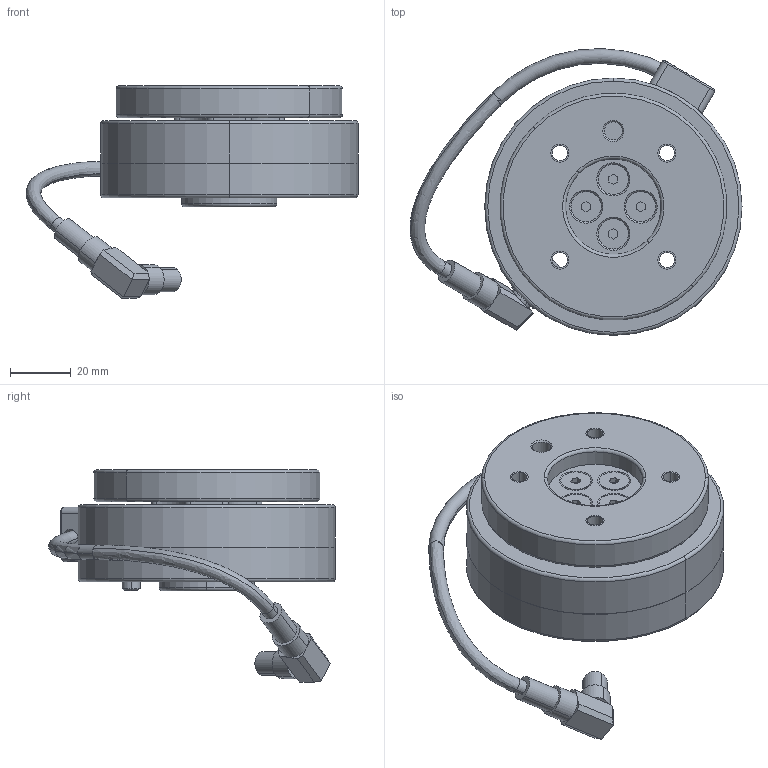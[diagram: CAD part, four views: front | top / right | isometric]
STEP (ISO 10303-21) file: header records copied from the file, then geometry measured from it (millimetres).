
FILE_DESCRIPTION((''),'2;1');
FILE_NAME('3635C2-00_ASM','2020-07-02T15:08:43',('lenovo'),(''),'CREO PARAMETRIC BY PTC INC, 2016390','CREO PARAMETRIC BY PTC INC, 2016390','');
FILE_SCHEMA(('CONFIG_CONTROL_DESIGN'));
Length unit declared in the file: millimetre
Products named in the file (22): 3635C2-15; 3635C2-10_ASM; 3635C2-21; M6X10; 5000385; 3635C2-22_ASM; 5000151; 3635C2-25; 5000119; 5000406; 3635C2-CIRCUIT; 3635C2-CABLE; 3635C2-FILLER5; 3635C2-O-RING; 5000635; 3635C2-FILLER6; 3635C2-LED_3MM; 3635C2-01_ASM; 3635C2-31; 3635C2-30_ASM; MFHCS_M5X14; 3635C2-00_ASM
Assembly tree (36 placements, depth 4):
  3635C2-00_ASM
    3635C2-01_ASM
      3635C2-10_ASM
        3635C2-15
      3635C2-22_ASM
        3635C2-21
        M6X10
        5000385
      5000151  x4
      3635C2-25
      5000119  x2
      5000406
      3635C2-CIRCUIT
      3635C2-CABLE
      3635C2-FILLER5  x4
      3635C2-O-RING
      5000635  x4
      3635C2-FILLER6  x2
      3635C2-LED_3MM
    3635C2-30_ASM
      3635C2-31
      5000385
    MFHCS_M5X14  x4
Bounding box: 109.68 x 94.75 x 70.1 mm (x, y, z)
Volume: 167001.3 mm3; surface area: 72142.5 mm2
Topology: 32 solids, 70 shells, 778 faces, 1802 edges, 1163 vertices
Faces by surface type: cylinder 349, plane 282, cone 107, torus 34, sphere 4, bspline 2
Entity records: 17789 total; most frequent: CARTESIAN_POINT 3695, DIRECTION 3257, ORIENTED_EDGE 2498, AXIS2_PLACEMENT_3D 1350, EDGE_CURVE 1306, VERTEX_POINT 853, CIRCLE 697, EDGE_LOOP 677
